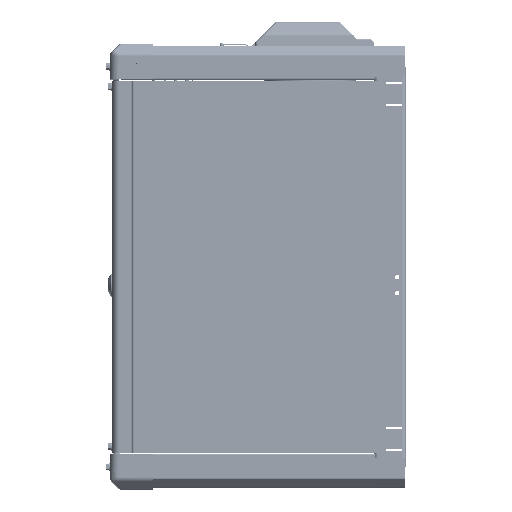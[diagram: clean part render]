
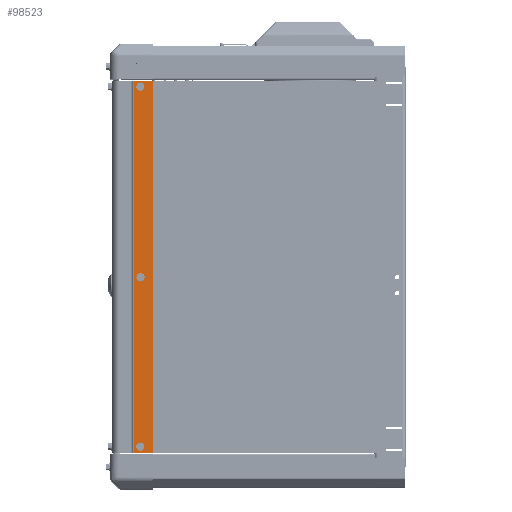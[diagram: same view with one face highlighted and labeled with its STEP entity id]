
A CAD part, left-side view. The second image highlights one B-rep face of the part: STEP entity #98523.
In plain terms, the highlighted planar face has unit normal (-1, 0, 0).
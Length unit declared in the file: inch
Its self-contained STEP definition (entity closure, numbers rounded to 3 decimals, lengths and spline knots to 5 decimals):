
#5405 = AXIS2_PLACEMENT_3D ( 'NONE', #46282, #242915, #202626 ) ;
#5486 = VERTEX_POINT ( 'NONE', #163356 ) ;
#9604 = LINE ( 'NONE', #168454, #87382 ) ;
#14268 = EDGE_CURVE ( 'NONE', #28319, #19351, #93508, .T. ) ;
#18500 = AXIS2_PLACEMENT_3D ( 'NONE', #254289, #155358, #96675 ) ;
#19351 = VERTEX_POINT ( 'NONE', #151756 ) ;
#19767 = DIRECTION ( 'NONE',  ( 1., 0., 0. ) ) ;
#24304 = PLANE ( 'NONE',  #213682 ) ;
#24357 = DIRECTION ( 'NONE',  ( 0., 0., -1. ) ) ;
#28319 = VERTEX_POINT ( 'NONE', #104724 ) ;
#30374 = CARTESIAN_POINT ( 'NONE',  ( -7.77, 14.61857, -1.4915 ) ) ;
#31634 = DIRECTION ( 'NONE',  ( 1., 0., 0. ) ) ;
#33358 = CARTESIAN_POINT ( 'NONE',  ( -7.77, 14.61857, -24.149 ) ) ;
#42152 = CIRCLE ( 'NONE', #254290, 0.1405 ) ;
#42966 = VERTEX_POINT ( 'NONE', #33358 ) ;
#46282 = CARTESIAN_POINT ( 'NONE',  ( -7.77, 14.61857, -1.4915 ) ) ;
#50444 = EDGE_LOOP ( 'NONE', ( #175674, #168120 ) ) ;
#58346 = CARTESIAN_POINT ( 'NONE',  ( -7.77, 13.82557, -24.3885 ) ) ;
#60221 = EDGE_CURVE ( 'NONE', #28319, #69394, #202854, .T. ) ;
#68191 = ORIENTED_EDGE ( 'NONE', *, *, #242288, .T. ) ;
#69394 = VERTEX_POINT ( 'NONE', #155186 ) ;
#71174 = VERTEX_POINT ( 'NONE', #165351 ) ;
#72446 = CARTESIAN_POINT ( 'NONE',  ( -7.77, 16.41756, -12.75 ) ) ;
#74587 = ORIENTED_EDGE ( 'NONE', *, *, #110062, .F. ) ;
#83055 = DIRECTION ( 'NONE',  ( 0., 0., -1. ) ) ;
#84355 = CIRCLE ( 'NONE', #5405, 0.1405 ) ;
#85513 = FACE_BOUND ( 'NONE', #224581, .T. ) ;
#87382 = VECTOR ( 'NONE', #122909, 39.37008 ) ;
#89945 = ORIENTED_EDGE ( 'NONE', *, *, #14268, .F. ) ;
#93508 = LINE ( 'NONE', #245857, #216927 ) ;
#93688 = DIRECTION ( 'NONE',  ( 1., 0., 0. ) ) ;
#96675 = DIRECTION ( 'NONE',  ( 0., 0., 1. ) ) ;
#96946 = AXIS2_PLACEMENT_3D ( 'NONE', #30374, #31634, #109870 ) ;
#97762 = EDGE_LOOP ( 'NONE', ( #187386, #74587, #132697, #89945 ) ) ;
#98523 = ADVANCED_FACE ( 'NONE', ( #141544, #85513, #204024, #202762 ), #24304, .F. ) ;
#98642 = LINE ( 'NONE', #58346, #207291 ) ;
#104724 = CARTESIAN_POINT ( 'NONE',  ( -7.77, 15.01408, -1.1115 ) ) ;
#105285 = CARTESIAN_POINT ( 'NONE',  ( -7.77, 14.61857, -1.351 ) ) ;
#109423 = CIRCLE ( 'NONE', #96946, 0.1405 ) ;
#109870 = DIRECTION ( 'NONE',  ( 0., 0., -1. ) ) ;
#110062 = EDGE_CURVE ( 'NONE', #5486, #69394, #9604, .T. ) ;
#112281 = EDGE_CURVE ( 'NONE', #201793, #127980, #84355, .T. ) ;
#116881 = DIRECTION ( 'NONE',  ( 0., 0., -1. ) ) ;
#122909 = DIRECTION ( 'NONE',  ( 0., 1., 0. ) ) ;
#125723 = EDGE_CURVE ( 'NONE', #19351, #5486, #98642, .T. ) ;
#127980 = VERTEX_POINT ( 'NONE', #105285 ) ;
#132621 = EDGE_LOOP ( 'NONE', ( #240174, #68191 ) ) ;
#132697 = ORIENTED_EDGE ( 'NONE', *, *, #125723, .F. ) ;
#134110 = EDGE_CURVE ( 'NONE', #42966, #161566, #138947, .T. ) ;
#134559 = ORIENTED_EDGE ( 'NONE', *, *, #138271, .T. ) ;
#138271 = EDGE_CURVE ( 'NONE', #209789, #71174, #240181, .T. ) ;
#138947 = CIRCLE ( 'NONE', #18500, 0.1405 ) ;
#139121 = CARTESIAN_POINT ( 'NONE',  ( -7.77, 14.61857, -23.868 ) ) ;
#141375 = CARTESIAN_POINT ( 'NONE',  ( -7.77, 14.61857, -13.54 ) ) ;
#141544 = FACE_BOUND ( 'NONE', #50444, .T. ) ;
#142934 = CARTESIAN_POINT ( 'NONE',  ( -7.77, 15.01408, -12.75 ) ) ;
#146538 = CIRCLE ( 'NONE', #225487, 0.1405 ) ;
#151756 = CARTESIAN_POINT ( 'NONE',  ( -7.77, 13.82557, -1.1115 ) ) ;
#155186 = CARTESIAN_POINT ( 'NONE',  ( -7.77, 15.01408, -24.3885 ) ) ;
#155358 = DIRECTION ( 'NONE',  ( 1., 0., 0. ) ) ;
#161566 = VERTEX_POINT ( 'NONE', #139121 ) ;
#163356 = CARTESIAN_POINT ( 'NONE',  ( -7.77, 13.82557, -24.3885 ) ) ;
#165351 = CARTESIAN_POINT ( 'NONE',  ( -7.77, 14.61857, -13.259 ) ) ;
#168120 = ORIENTED_EDGE ( 'NONE', *, *, #134110, .T. ) ;
#168454 = CARTESIAN_POINT ( 'NONE',  ( -7.77, 16.33756, -24.3885 ) ) ;
#171663 = DIRECTION ( 'NONE',  ( 0., -1., 0. ) ) ;
#175674 = ORIENTED_EDGE ( 'NONE', *, *, #252934, .T. ) ;
#178619 = DIRECTION ( 'NONE',  ( 0., 0., -1. ) ) ;
#185899 = DIRECTION ( 'NONE',  ( 1., 0., 0. ) ) ;
#187386 = ORIENTED_EDGE ( 'NONE', *, *, #60221, .T. ) ;
#190347 = EDGE_CURVE ( 'NONE', #71174, #209789, #146538, .T. ) ;
#193960 = CARTESIAN_POINT ( 'NONE',  ( -7.77, 14.61857, -24.0085 ) ) ;
#197717 = ORIENTED_EDGE ( 'NONE', *, *, #190347, .T. ) ;
#198216 = CARTESIAN_POINT ( 'NONE',  ( -7.77, 14.61857, -13.3995 ) ) ;
#201793 = VERTEX_POINT ( 'NONE', #246566 ) ;
#202626 = DIRECTION ( 'NONE',  ( 0., 0., -1. ) ) ;
#202762 = FACE_OUTER_BOUND ( 'NONE', #97762, .T. ) ;
#202854 = LINE ( 'NONE', #142934, #246600 ) ;
#204024 = FACE_BOUND ( 'NONE', #132621, .T. ) ;
#207291 = VECTOR ( 'NONE', #116881, 39.37008 ) ;
#209789 = VERTEX_POINT ( 'NONE', #141375 ) ;
#210441 = DIRECTION ( 'NONE',  ( 1., 0., 0. ) ) ;
#213682 = AXIS2_PLACEMENT_3D ( 'NONE', #72446, #210441, #250807 ) ;
#216927 = VECTOR ( 'NONE', #171663, 39.37008 ) ;
#221019 = CARTESIAN_POINT ( 'NONE',  ( -7.77, 14.61857, -13.3995 ) ) ;
#224581 = EDGE_LOOP ( 'NONE', ( #134559, #197717 ) ) ;
#225487 = AXIS2_PLACEMENT_3D ( 'NONE', #221019, #185899, #24357 ) ;
#229125 = DIRECTION ( 'NONE',  ( 0., 0., 1. ) ) ;
#240174 = ORIENTED_EDGE ( 'NONE', *, *, #112281, .T. ) ;
#240181 = CIRCLE ( 'NONE', #244434, 0.1405 ) ;
#242288 = EDGE_CURVE ( 'NONE', #127980, #201793, #109423, .T. ) ;
#242915 = DIRECTION ( 'NONE',  ( 1., 0., 0. ) ) ;
#244434 = AXIS2_PLACEMENT_3D ( 'NONE', #198216, #19767, #178619 ) ;
#245857 = CARTESIAN_POINT ( 'NONE',  ( -7.77, 13.84256, -1.1115 ) ) ;
#246566 = CARTESIAN_POINT ( 'NONE',  ( -7.77, 14.61857, -1.632 ) ) ;
#246600 = VECTOR ( 'NONE', #83055, 39.37008 ) ;
#250807 = DIRECTION ( 'NONE',  ( 0., -1., 0. ) ) ;
#252934 = EDGE_CURVE ( 'NONE', #161566, #42966, #42152, .T. ) ;
#254289 = CARTESIAN_POINT ( 'NONE',  ( -7.77, 14.61857, -24.0085 ) ) ;
#254290 = AXIS2_PLACEMENT_3D ( 'NONE', #193960, #93688, #229125 ) ;
